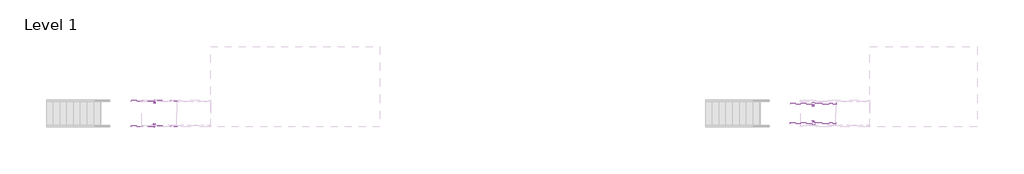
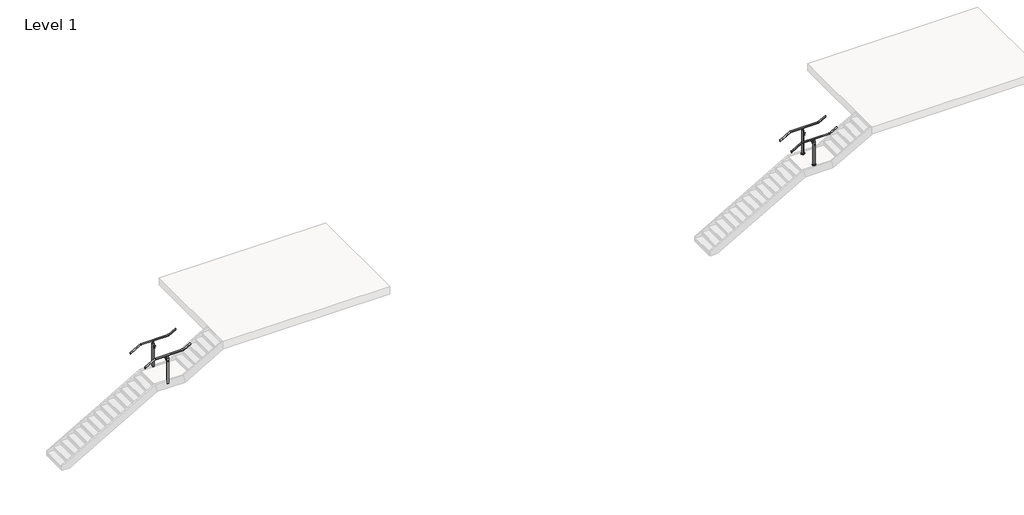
# One storey, part 23 of 26: 4 railings.
"""IFC4 building model written with IfcOpenShell, lengths in millimetres."""

from ifc_helpers import new_model, si_unit, point, frame, frame_2d, origin, place, context, project, spatial, polyline, circle_curve, ellipse_curve, trimmed, segment, composite_curve, outline, extrude, faceted_brep, element, save
from ifc_brep_helpers import plane_surface, cylinder_surface, advanced_brep

model = new_model("IFC4")

# Units and contexts
model_context = context("Model", 3, world=origin())
ifc_project = project(units=[si_unit("LENGTHUNIT", "METRE", prefix="MILLI")], contexts=[model_context])

# Site, building, storey
site = spatial("IfcSite", under=ifc_project)
building = spatial("IfcBuilding", under=site)
storey = spatial("IfcBuildingStorey", under=building, Name="Level 1", Elevation=0.0)

# Railings
placement = place(None, origin())
element("IfcRailing", 1, ObjectType="VIVA-CUBE-Glass-Core Mount-Stair-Landing", at=placement, inside=storey, context=model_context, shape_type="SolidModel", body=[
    advanced_brep(
    [(162601.2620703, 16646.1395941, 3009.6740933), (162601.2620703, 16696.9395941, 3009.6740933), (162989.007407, 16646.1395941, 3231.2428571), (162989.007407, 16696.9395941, 3231.2428571), (164055.807407, 16646.1395941, 3231.2428571), (164055.807407, 16696.9395941, 3231.2428571), (164325.2870703, 16646.1395941, 3385.2312362), (164325.2870703, 16696.9395941, 3385.2312362)],
    [
        (0, 1, ellipse_curve(frame((162601.2620703, 16671.5395941, 3009.6740933), z_axis=(-1.0, 0.0, 0.0), x_axis=(0.0, 0.0, -1.0)), 29.2544781, 25.4)),
        (1, 0, ellipse_curve(frame((162601.2620703, 16671.5395941, 3009.6740933), z_axis=(-1.0, 0.0, 0.0), x_axis=(0.0, 0.0, -1.0)), 29.2544781, 25.4)),
        (0, 2),
        (2, 3, ellipse_curve(frame((162989.007407, 16671.5395941, 3231.2428571), z_axis=(-0.9664996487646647, 0.0, -0.2566679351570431), x_axis=(0.2566679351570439, 0.0, -0.9664996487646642)), 26.2804027, 25.4)),
        (3, 1),
        (3, 2, ellipse_curve(frame((162989.007407, 16671.5395941, 3231.2428571), z_axis=(-0.9664996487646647, 0.0, -0.2566679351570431), x_axis=(0.2566679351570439, 0.0, -0.9664996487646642)), 26.2804027, 25.4)),
        (2, 4),
        (4, 5, ellipse_curve(frame((164055.807407, 16671.5395941, 3231.2428571), z_axis=(-0.966499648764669, 0.0, -0.25666793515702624), x_axis=(-0.25666793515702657, 0.0, 0.966499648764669)), 26.2804027, 25.4)),
        (5, 3),
        (5, 4, ellipse_curve(frame((164055.807407, 16671.5395941, 3231.2428571), z_axis=(-0.966499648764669, 0.0, -0.25666793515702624), x_axis=(-0.25666793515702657, 0.0, 0.966499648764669)), 26.2804027, 25.4)),
        (6, 7, ellipse_curve(frame((164325.2870703, 16671.5395941, 3385.2312362), z_axis=(1.0, 0.0, 0.0), x_axis=(0.0, 0.0, -1.0)), 29.2544781, 25.4)),
        (7, 6, ellipse_curve(frame((164325.2870703, 16671.5395941, 3385.2312362), z_axis=(1.0, 0.0, 0.0), x_axis=(0.0, 0.0, -1.0)), 29.2544781, 25.4)),
        (4, 6),
        (7, 5),
    ],
    [
        plane_surface(frame((162601.2620703, 16671.5395941, 3038.9285714), z_axis=(-1.0, 0.0, 0.0), x_axis=(0.0, 1.0, 0.0))),
        cylinder_surface(frame((162613.8639993, 16671.5395941, 3016.8751956), z_axis=(-0.8682431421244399, 0.0, -0.4961389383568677), x_axis=(0.0, 1.0, 0.0)), 25.4),
        cylinder_surface(frame((162982.2620703, 16671.5395941, 3231.2428571), z_axis=(-1.0, 0.0, 0.0), x_axis=(0.0, 1.0, 0.0)), 25.4),
        plane_surface(frame((164325.2870703, 16671.5395941, 3414.4857143), z_axis=(1.0, 0.0, 0.0), x_axis=(0.0, 1.0, 0.0))),
        cylinder_surface(frame((164061.6639993, 16671.5395941, 3234.5894813), z_axis=(-0.8682431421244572, 0.0, -0.49613893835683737), x_axis=(0.0, 1.0, 0.0)), 25.4),
    ],
    [
        (0, [[1, 2]]),
        (1, [[-1, 3, 4, 5]]),
        (1, [[-2, -5, 6, -3]]),
        (2, [[-4, 7, 8, 9]]),
        (2, [[-6, -9, 10, -7]]),
        (3, [[11, 12]]),
        (4, [[-8, 13, -12, 14]]),
        (4, [[-10, -14, -11, -13]]),
    ],
),
    extrude(outline(composite_curve([segment(trimmed(circle_curve(frame_2d((0.0, 7.0)), 7.0), [point((0.0, 14.0))], [point((0.0, 0.0))], False, "CARTESIAN"), True, "CONTINUOUS"), segment(trimmed(circle_curve(frame_2d((0.0, 7.0)), 7.0), [point((0.0, 0.0))], [point((0.0, 14.0))], False, "CARTESIAN"), True, "CONTINUOUS")], self_intersect=False)), frame((163463.7668308, 16585.8557683, 2972.3156836), z_axis=(-0.0012555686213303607, 0.0, 0.999999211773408), x_axis=(-0.999999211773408, 0.0, -0.0012555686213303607)), (0.0, 0.0, 1.0), 75.97),
    extrude(outline(composite_curve([segment(polyline([(16591.1374245, 3056.8509005), (16592.1638142, 3055.8335135)]), True, "CONTINUOUS"), segment(trimmed(circle_curve(frame_2d((16591.1078363, 3054.7681916)), 1.5), [point((16592.1638142, 3055.8335135))], [point((16592.0932378, 3053.6372698))], False, "CARTESIAN"), True, "CONTINUOUS"), segment(trimmed(circle_curve(frame_2d((16577.6078363, 3070.2618193)), 22.05), [point((16592.0932378, 3053.6372698))], [point((16563.1224348, 3053.6372698))], False, "CARTESIAN"), True, "CONTINUOUS"), segment(trimmed(circle_curve(frame_2d((16564.1078363, 3054.7681916)), 1.5), [point((16563.1224348, 3053.6372698))], [point((16563.0518584, 3055.8335135))], False, "CARTESIAN"), True, "CONTINUOUS"), segment(polyline([(16563.0518584, 3055.8335135), (16564.0782481, 3056.8509005)]), True, "CONTINUOUS"), segment(trimmed(circle_curve(frame_2d((16577.6078363, 3070.2618193)), 19.05), [point((16564.0782481, 3056.8509005))], [point((16591.1374245, 3056.8509005))], True, "CARTESIAN"), True, "CONTINUOUS")], self_intersect=False)), frame((163425.5952969, 0.0, 0.0), z_axis=(1.0, 0.0, 0.0), x_axis=(0.0, 1.0, 0.0)), (0.0, 0.0, 1.0), 74.5229187),
    extrude(outline(composite_curve([segment(trimmed(circle_curve(frame_2d((2999.1922796, 163463.7069273)), 12.5), [point((2999.1922796, 163476.2069273))], [point((2999.1922796, 163451.2069273))], False, "CARTESIAN"), True, "CONTINUOUS"), segment(trimmed(circle_curve(frame_2d((2999.1922796, 163463.7069273)), 12.5), [point((2999.1922796, 163451.2069273))], [point((2999.1922796, 163476.2069273))], False, "CARTESIAN"), True, "CONTINUOUS")], self_intersect=False)), frame((0.0, 16564.0782481, 0.0), z_axis=(0.0, 1.0, 0.0), x_axis=(0.0, 0.0, 1.0)), (0.0, 0.0, 1.0), 82.061346),
    extrude(outline(composite_curve([segment(trimmed(circle_curve(frame_2d((2999.1922796, 163463.7069273)), 12.5), [point((2999.1922796, 163451.2069273))], [point((2999.1922796, 163476.2069273))], False, "CARTESIAN"), True, "CONTINUOUS"), segment(trimmed(circle_curve(frame_2d((2999.1922796, 163463.7069273)), 12.5), [point((2999.1922796, 163476.2069273))], [point((2999.1922796, 163451.2069273))], False, "CARTESIAN"), True, "CONTINUOUS")], self_intersect=False)), frame((0.0, 16696.9395941, 0.0), z_axis=(0.0, 1.0, 0.0), x_axis=(0.0, 0.0, 1.0)), (0.0, 0.0, 1.0), 7.62),
    extrude(outline(composite_curve([segment(trimmed(circle_curve(frame_2d((163463.6714453, 16671.5395941)), 63.5), [point((163463.6714453, 16735.0395941))], [point((163463.6714453, 16608.0395941))], False, "CARTESIAN"), True, "CONTINUOUS"), segment(trimmed(circle_curve(frame_2d((163463.6714453, 16671.5395941)), 63.5), [point((163463.6714453, 16608.0395941))], [point((163463.6714453, 16735.0395941))], False, "CARTESIAN"), True, "CONTINUOUS")], self_intersect=False), holes=[composite_curve([segment(trimmed(circle_curve(frame_2d((163428.2017014, 16707.009338)), 4.7625), [point((163428.2017014, 16711.771838))], [point((163428.2017014, 16702.246838))], True, "CARTESIAN"), True, "CONTINUOUS"), segment(trimmed(circle_curve(frame_2d((163428.2017014, 16707.009338)), 4.7625), [point((163428.2017014, 16702.246838))], [point((163428.2017014, 16711.771838))], True, "CARTESIAN"), True, "CONTINUOUS")], self_intersect=False), composite_curve([segment(trimmed(circle_curve(frame_2d((163428.2017014, 16636.0698502)), 4.7625), [point((163428.2017014, 16640.8323502))], [point((163428.2017014, 16631.3073502))], True, "CARTESIAN"), True, "CONTINUOUS"), segment(trimmed(circle_curve(frame_2d((163428.2017014, 16636.0698502)), 4.7625), [point((163428.2017014, 16631.3073502))], [point((163428.2017014, 16640.8323502))], True, "CARTESIAN"), True, "CONTINUOUS")], self_intersect=False), composite_curve([segment(trimmed(circle_curve(frame_2d((163499.1411892, 16707.009338)), 4.7625), [point((163499.1411892, 16711.771838))], [point((163499.1411892, 16702.246838))], True, "CARTESIAN"), True, "CONTINUOUS"), segment(trimmed(circle_curve(frame_2d((163499.1411892, 16707.009338)), 4.7625), [point((163499.1411892, 16702.246838))], [point((163499.1411892, 16711.771838))], True, "CARTESIAN"), True, "CONTINUOUS")], self_intersect=False), composite_curve([segment(trimmed(circle_curve(frame_2d((163499.1411892, 16636.0698502)), 4.7625), [point((163499.1411892, 16640.8323502))], [point((163499.1411892, 16631.3073502))], True, "CARTESIAN"), True, "CONTINUOUS"), segment(trimmed(circle_curve(frame_2d((163499.1411892, 16636.0698502)), 4.7625), [point((163499.1411892, 16631.3073502))], [point((163499.1411892, 16640.8323502))], True, "CARTESIAN"), True, "CONTINUOUS")], self_intersect=False)]), frame((0.0, 0.0, 2177.1428571), z_axis=(0.0, 0.0, 1.0), x_axis=(1.0, 0.0, 0.0)), (0.0, 0.0, 1.0), 25.4),
    faceted_brep([(163476.3714453, 16658.8395941, 3174.433132), (163476.3714453, 16667.5708441, 3174.433132), (163450.9714453, 16667.5708441, 3174.433132), (163450.9714453, 16658.8395941, 3174.433132), (163450.9714453, 16684.2395941, 3174.433132), (163450.9714453, 16675.5083441, 3174.433132), (163476.3714453, 16675.5083441, 3174.433132), (163476.3714453, 16684.2395941, 3174.433132), (163489.0714453, 16646.1395941, 3118.2776425), (163489.0714453, 16696.9395941, 3118.2776425), (163438.2714453, 16646.1395941, 3118.2776425), (163438.2714453, 16696.9395941, 3118.2776425), (163489.0714453, 16646.1395941, 2088.2428571), (163438.2714453, 16646.1395941, 2088.2428571), (163438.2714453, 16696.9395941, 2088.2428571), (163489.0714453, 16696.9395941, 2088.2428571), (163450.9714453, 16675.5083441, 3186.4734584), (163450.9714453, 16667.5708441, 3186.4734584), (163476.3714453, 16667.5708441, 3186.4734584), (163476.3714453, 16675.5083441, 3186.4734584)], [[[0, 1, 2, 3]], [[4, 5, 6, 7]], [[8, 9, 7, 6, 1, 0]], [[3, 10, 8, 0]], [[3, 2, 5, 4, 11, 10]], [[7, 9, 11, 4]], [[12, 13, 14, 15]], [[12, 8, 10, 13]], [[13, 10, 11, 14]], [[14, 11, 9, 15]], [[15, 9, 8, 12]], [[16, 17, 18, 19]], [[19, 6, 5, 16]], [[18, 1, 6, 19]], [[17, 2, 1, 18]], [[16, 5, 2, 17]]]),
    extrude(outline(composite_curve([segment(trimmed(circle_curve(frame_2d((16685.5542263, 3206.6530378)), 2.9558141), [point((16684.0066686, 3209.1713512))], [point((16687.842566, 3204.7821187))], False, "CARTESIAN"), True, "CONTINUOUS"), segment(trimmed(circle_curve(frame_2d((16671.5763288, 3232.0488022)), 31.75), [point((16687.842566, 3204.7821187))], [point((16656.3256738, 3204.2013603))], False, "CARTESIAN"), True, "CONTINUOUS"), segment(trimmed(circle_curve(frame_2d((16657.8029788, 3206.5739456)), 2.7949225), [point((16656.3256738, 3204.2013603))], [point((16659.047632, 3209.0764304))], False, "CARTESIAN"), True, "CONTINUOUS"), segment(trimmed(circle_curve(frame_2d((16671.4428657, 3231.2861755)), 25.4345159), [point((16659.047632, 3209.0764304))], [point((16684.0066686, 3209.1713512))], True, "CARTESIAN"), True, "CONTINUOUS")], self_intersect=False)), frame((163418.4340453, 0.0, 0.0), z_axis=(1.0, 0.0, 0.0), x_axis=(0.0, 1.0, 0.0)), (0.0, 0.0, 1.0), 90.4748),
    extrude(outline(composite_curve([segment(polyline([(3200.5113742, 163490.7393602), (3200.5113742, 163436.6035304)]), True, "CONTINUOUS"), segment(trimmed(circle_curve(frame_2d((3186.1434593, 163436.6035304)), 14.3679149), [point((3200.5113742, 163436.6035304))], [point((3186.1434593, 163450.9714453))], True, "CARTESIAN"), True, "CONTINUOUS"), segment(trimmed(circle_curve(frame_2d((3186.1434593, 163463.6714453)), 12.7), [point((3186.1434593, 163450.9714453))], [point((3186.1434593, 163476.3714453))], False, "CARTESIAN"), True, "CONTINUOUS"), segment(trimmed(circle_curve(frame_2d((3186.1434593, 163490.7393602)), 14.3679149), [point((3186.1434593, 163476.3714453))], [point((3200.5113742, 163490.7393602))], True, "CARTESIAN"), True, "CONTINUOUS")], self_intersect=False)), frame((0.0, 16668.9995941, 0.0), z_axis=(0.0, 1.0, 0.0), x_axis=(0.0, 0.0, 1.0)), (0.0, 0.0, 1.0), 5.08),
])
element("IfcRailing", 2, ObjectType="VIVA-CUBE-Glass-Core Mount-Stair-Landing", at=placement, inside=storey, context=model_context, shape_type="SolidModel", body=[
    advanced_brep(
    [(162601.2620703, 15909.5395941, 3009.6740933), (162601.2620703, 15960.3395941, 3009.6740933), (162989.007407, 15909.5395941, 3231.2428571), (162989.007407, 15960.3395941, 3231.2428571), (164055.807407, 15909.5395941, 3231.2428571), (164055.807407, 15960.3395941, 3231.2428571), (164325.2870703, 15909.5395941, 3385.2312362), (164325.2870703, 15960.3395941, 3385.2312362)],
    [
        (0, 1, ellipse_curve(frame((162601.2620703, 15934.9395941, 3009.6740933), z_axis=(-1.0, 0.0, 0.0), x_axis=(0.0, 0.0, -1.0)), 29.2544781, 25.4)),
        (1, 0, ellipse_curve(frame((162601.2620703, 15934.9395941, 3009.6740933), z_axis=(-1.0, 0.0, 0.0), x_axis=(0.0, 0.0, -1.0)), 29.2544781, 25.4)),
        (0, 2),
        (2, 3, ellipse_curve(frame((162989.007407, 15934.9395941, 3231.2428571), z_axis=(-0.9664996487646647, 0.0, -0.2566679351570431), x_axis=(0.2566679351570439, 0.0, -0.9664996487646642)), 26.2804027, 25.4)),
        (3, 1),
        (3, 2, ellipse_curve(frame((162989.007407, 15934.9395941, 3231.2428571), z_axis=(-0.9664996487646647, 0.0, -0.2566679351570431), x_axis=(0.2566679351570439, 0.0, -0.9664996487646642)), 26.2804027, 25.4)),
        (2, 4),
        (4, 5, ellipse_curve(frame((164055.807407, 15934.9395941, 3231.2428571), z_axis=(-0.966499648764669, 0.0, -0.25666793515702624), x_axis=(-0.25666793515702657, 0.0, 0.966499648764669)), 26.2804027, 25.4)),
        (5, 3),
        (5, 4, ellipse_curve(frame((164055.807407, 15934.9395941, 3231.2428571), z_axis=(-0.966499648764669, 0.0, -0.25666793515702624), x_axis=(-0.25666793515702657, 0.0, 0.966499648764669)), 26.2804027, 25.4)),
        (6, 7, ellipse_curve(frame((164325.2870703, 15934.9395941, 3385.2312362), z_axis=(1.0, 0.0, 0.0), x_axis=(0.0, 0.0, -1.0)), 29.2544781, 25.4)),
        (7, 6, ellipse_curve(frame((164325.2870703, 15934.9395941, 3385.2312362), z_axis=(1.0, 0.0, 0.0), x_axis=(0.0, 0.0, -1.0)), 29.2544781, 25.4)),
        (4, 6),
        (7, 5),
    ],
    [
        plane_surface(frame((162601.2620703, 15934.9395941, 3038.9285714), z_axis=(-1.0, 0.0, 0.0), x_axis=(0.0, 1.0, 0.0))),
        cylinder_surface(frame((162613.8639993, 15934.9395941, 3016.8751956), z_axis=(-0.8682431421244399, 0.0, -0.4961389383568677), x_axis=(0.0, 1.0, 0.0)), 25.4),
        cylinder_surface(frame((162982.2620703, 15934.9395941, 3231.2428571), z_axis=(-1.0, 0.0, 0.0), x_axis=(0.0, 1.0, 0.0)), 25.4),
        plane_surface(frame((164325.2870703, 15934.9395941, 3414.4857143), z_axis=(1.0, 0.0, 0.0), x_axis=(0.0, 1.0, 0.0))),
        cylinder_surface(frame((164061.6639993, 15934.9395941, 3234.5894813), z_axis=(-0.8682431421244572, 0.0, -0.49613893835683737), x_axis=(0.0, 1.0, 0.0)), 25.4),
    ],
    [
        (0, [[1, 2]]),
        (1, [[-1, 3, 4, 5]]),
        (1, [[-2, -5, 6, -3]]),
        (2, [[-4, 7, 8, 9]]),
        (2, [[-6, -9, 10, -7]]),
        (3, [[11, 12]]),
        (4, [[-8, 13, -12, 14]]),
        (4, [[-10, -14, -11, -13]]),
    ],
),
    extrude(outline(composite_curve([segment(trimmed(circle_curve(frame_2d((0.0, -7.0)), 7.0), [point((0.0, -14.0))], [point((0.0, 0.0))], False, "CARTESIAN"), True, "CONTINUOUS"), segment(trimmed(circle_curve(frame_2d((0.0, -7.0)), 7.0), [point((0.0, 0.0))], [point((0.0, -14.0))], False, "CARTESIAN"), True, "CONTINUOUS")], self_intersect=False)), frame((163463.7668308, 16020.6234199, 2972.3156836), z_axis=(-0.0012555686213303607, 0.0, 0.999999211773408), x_axis=(-0.999999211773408, 0.0, -0.0012555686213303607)), (0.0, 0.0, 1.0), 75.97),
    extrude(outline(composite_curve([segment(trimmed(circle_curve(frame_2d((16028.8713519, 3070.2618193)), 19.05), [point((16015.3417637, 3056.8509005))], [point((16042.4009401, 3056.8509005))], True, "CARTESIAN"), True, "CONTINUOUS"), segment(polyline([(16042.4009401, 3056.8509005), (16043.4273298, 3055.8335135)]), True, "CONTINUOUS"), segment(trimmed(circle_curve(frame_2d((16042.3713519, 3054.7681916)), 1.5), [point((16043.4273298, 3055.8335135))], [point((16043.3567534, 3053.6372698))], False, "CARTESIAN"), True, "CONTINUOUS"), segment(trimmed(circle_curve(frame_2d((16028.8713519, 3070.2618193)), 22.05), [point((16043.3567534, 3053.6372698))], [point((16014.3859504, 3053.6372698))], False, "CARTESIAN"), True, "CONTINUOUS"), segment(trimmed(circle_curve(frame_2d((16015.3713519, 3054.7681916)), 1.5), [point((16014.3859504, 3053.6372698))], [point((16014.315374, 3055.8335135))], False, "CARTESIAN"), True, "CONTINUOUS"), segment(polyline([(16014.315374, 3055.8335135), (16015.3417637, 3056.8509005)]), True, "CONTINUOUS")], self_intersect=False)), frame((163425.5952969, 0.0, 0.0), z_axis=(1.0, 0.0, 0.0), x_axis=(0.0, 1.0, 0.0)), (0.0, 0.0, 1.0), 74.5229187),
    extrude(outline(composite_curve([segment(trimmed(circle_curve(frame_2d((2999.1922796, 163463.7069273)), 12.5), [point((2999.1922796, 163476.2069273))], [point((2999.1922796, 163451.2069273))], False, "CARTESIAN"), True, "CONTINUOUS"), segment(trimmed(circle_curve(frame_2d((2999.1922796, 163463.7069273)), 12.5), [point((2999.1922796, 163451.2069273))], [point((2999.1922796, 163476.2069273))], False, "CARTESIAN"), True, "CONTINUOUS")], self_intersect=False)), frame((0.0, 15960.3395941, 0.0), z_axis=(0.0, 1.0, 0.0), x_axis=(0.0, 0.0, 1.0)), (0.0, 0.0, 1.0), 82.061346),
    extrude(outline(composite_curve([segment(trimmed(circle_curve(frame_2d((2999.1922796, 163463.7069273)), 12.5), [point((2999.1922796, 163451.2069273))], [point((2999.1922796, 163476.2069273))], False, "CARTESIAN"), True, "CONTINUOUS"), segment(trimmed(circle_curve(frame_2d((2999.1922796, 163463.7069273)), 12.5), [point((2999.1922796, 163476.2069273))], [point((2999.1922796, 163451.2069273))], False, "CARTESIAN"), True, "CONTINUOUS")], self_intersect=False)), frame((0.0, 15901.9195941, 0.0), z_axis=(0.0, 1.0, 0.0), x_axis=(0.0, 0.0, 1.0)), (0.0, 0.0, 1.0), 7.62),
    extrude(outline(composite_curve([segment(trimmed(circle_curve(frame_2d((163463.6714453, 15934.9395941)), 63.5), [point((163463.6714453, 15871.4395941))], [point((163463.6714453, 15998.4395941))], False, "CARTESIAN"), True, "CONTINUOUS"), segment(trimmed(circle_curve(frame_2d((163463.6714453, 15934.9395941)), 63.5), [point((163463.6714453, 15998.4395941))], [point((163463.6714453, 15871.4395941))], False, "CARTESIAN"), True, "CONTINUOUS")], self_intersect=False), holes=[composite_curve([segment(trimmed(circle_curve(frame_2d((163428.2017014, 15899.4698502)), 4.7625), [point((163428.2017014, 15894.7073502))], [point((163428.2017014, 15904.2323502))], True, "CARTESIAN"), True, "CONTINUOUS"), segment(trimmed(circle_curve(frame_2d((163428.2017014, 15899.4698502)), 4.7625), [point((163428.2017014, 15904.2323502))], [point((163428.2017014, 15894.7073502))], True, "CARTESIAN"), True, "CONTINUOUS")], self_intersect=False), composite_curve([segment(trimmed(circle_curve(frame_2d((163428.2017014, 15970.409338)), 4.7625), [point((163428.2017014, 15965.646838))], [point((163428.2017014, 15975.171838))], True, "CARTESIAN"), True, "CONTINUOUS"), segment(trimmed(circle_curve(frame_2d((163428.2017014, 15970.409338)), 4.7625), [point((163428.2017014, 15975.171838))], [point((163428.2017014, 15965.646838))], True, "CARTESIAN"), True, "CONTINUOUS")], self_intersect=False), composite_curve([segment(trimmed(circle_curve(frame_2d((163499.1411892, 15899.4698502)), 4.7625), [point((163499.1411892, 15894.7073502))], [point((163499.1411892, 15904.2323502))], True, "CARTESIAN"), True, "CONTINUOUS"), segment(trimmed(circle_curve(frame_2d((163499.1411892, 15899.4698502)), 4.7625), [point((163499.1411892, 15904.2323502))], [point((163499.1411892, 15894.7073502))], True, "CARTESIAN"), True, "CONTINUOUS")], self_intersect=False), composite_curve([segment(trimmed(circle_curve(frame_2d((163499.1411892, 15970.409338)), 4.7625), [point((163499.1411892, 15965.646838))], [point((163499.1411892, 15975.171838))], True, "CARTESIAN"), True, "CONTINUOUS"), segment(trimmed(circle_curve(frame_2d((163499.1411892, 15970.409338)), 4.7625), [point((163499.1411892, 15975.171838))], [point((163499.1411892, 15965.646838))], True, "CARTESIAN"), True, "CONTINUOUS")], self_intersect=False)]), frame((0.0, 0.0, 2177.1428571), z_axis=(0.0, 0.0, 1.0), x_axis=(1.0, 0.0, 0.0)), (0.0, 0.0, 1.0), 25.4),
    faceted_brep([(163476.3714453, 15947.6395941, 3174.433132), (163450.9714453, 15947.6395941, 3174.433132), (163450.9714453, 15938.9083441, 3174.433132), (163476.3714453, 15938.9083441, 3174.433132), (163450.9714453, 15922.2395941, 3174.433132), (163476.3714453, 15922.2395941, 3174.433132), (163476.3714453, 15930.9708441, 3174.433132), (163450.9714453, 15930.9708441, 3174.433132), (163489.0714453, 15960.3395941, 3118.2776425), (163489.0714453, 15909.5395941, 3118.2776425), (163438.2714453, 15960.3395941, 3118.2776425), (163438.2714453, 15909.5395941, 3118.2776425), (163489.0714453, 15960.3395941, 2088.2428571), (163489.0714453, 15909.5395941, 2088.2428571), (163438.2714453, 15909.5395941, 2088.2428571), (163438.2714453, 15960.3395941, 2088.2428571), (163450.9714453, 15930.9708441, 3186.4734584), (163476.3714453, 15930.9708441, 3186.4734584), (163476.3714453, 15938.9083441, 3186.4734584), (163450.9714453, 15938.9083441, 3186.4734584)], [[[0, 1, 2, 3]], [[4, 5, 6, 7]], [[8, 0, 3, 6, 5, 9]], [[1, 0, 8, 10]], [[1, 10, 11, 4, 7, 2]], [[5, 4, 11, 9]], [[12, 13, 14, 15]], [[12, 15, 10, 8]], [[15, 14, 11, 10]], [[14, 13, 9, 11]], [[13, 12, 8, 9]], [[16, 17, 18, 19]], [[17, 16, 7, 6]], [[18, 17, 6, 3]], [[19, 18, 3, 2]], [[16, 19, 2, 7]]]),
    extrude(outline(composite_curve([segment(trimmed(circle_curve(frame_2d((15935.0363225, 3231.2861755)), 25.4345159), [point((15922.4725196, 3209.1713512))], [point((15947.4315562, 3209.0764304))], True, "CARTESIAN"), True, "CONTINUOUS"), segment(trimmed(circle_curve(frame_2d((15948.6762094, 3206.5739456)), 2.7949225), [point((15947.4315562, 3209.0764304))], [point((15950.1535144, 3204.2013603))], False, "CARTESIAN"), True, "CONTINUOUS"), segment(trimmed(circle_curve(frame_2d((15934.9028594, 3232.0488022)), 31.75), [point((15950.1535144, 3204.2013603))], [point((15918.6366222, 3204.7821187))], False, "CARTESIAN"), True, "CONTINUOUS"), segment(trimmed(circle_curve(frame_2d((15920.9249619, 3206.6530378)), 2.9558141), [point((15918.6366222, 3204.7821187))], [point((15922.4725196, 3209.1713512))], False, "CARTESIAN"), True, "CONTINUOUS")], self_intersect=False)), frame((163418.4340453, 0.0, 0.0), z_axis=(1.0, 0.0, 0.0), x_axis=(0.0, 1.0, 0.0)), (0.0, 0.0, 1.0), 90.4748),
    extrude(outline(composite_curve([segment(polyline([(3200.5113742, 163490.7393602), (3200.5113742, 163436.6035304)]), True, "CONTINUOUS"), segment(trimmed(circle_curve(frame_2d((3186.1434593, 163436.6035304)), 14.3679149), [point((3200.5113742, 163436.6035304))], [point((3186.1434593, 163450.9714453))], True, "CARTESIAN"), True, "CONTINUOUS"), segment(trimmed(circle_curve(frame_2d((3186.1434593, 163463.6714453)), 12.7), [point((3186.1434593, 163450.9714453))], [point((3186.1434593, 163476.3714453))], False, "CARTESIAN"), True, "CONTINUOUS"), segment(trimmed(circle_curve(frame_2d((3186.1434593, 163490.7393602)), 14.3679149), [point((3186.1434593, 163476.3714453))], [point((3200.5113742, 163490.7393602))], True, "CARTESIAN"), True, "CONTINUOUS")], self_intersect=False)), frame((0.0, 15932.3995941, 0.0), z_axis=(0.0, 1.0, 0.0), x_axis=(0.0, 0.0, 1.0)), (0.0, 0.0, 1.0), 5.08),
])
element("IfcRailing", 3, ObjectType="VIVA-CUBE-Glass-Weld Mount-Stair-Landing", at=placement, inside=storey, context=model_context, shape_type="SolidModel", body=[
    advanced_brep(
    [(137924.2882982, 16760.4395941, 3009.6740933), (137924.2882982, 16811.2395941, 3009.6740933), (138312.0336349, 16760.4395941, 3231.2428571), (138312.0336349, 16811.2395941, 3231.2428571), (139378.8336349, 16760.4395941, 3231.2428571), (139378.8336349, 16811.2395941, 3231.2428571), (139648.3132982, 16760.4395941, 3385.2312362), (139648.3132982, 16811.2395941, 3385.2312362)],
    [
        (0, 1, ellipse_curve(frame((137924.2882982, 16785.8395941, 3009.6740933), z_axis=(-1.0, 0.0, 0.0), x_axis=(0.0, 0.0, -0.9999999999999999)), 29.2544781, 25.4)),
        (1, 0, ellipse_curve(frame((137924.2882982, 16785.8395941, 3009.6740933), z_axis=(-1.0, 0.0, 0.0), x_axis=(0.0, 0.0, -0.9999999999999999)), 29.2544781, 25.4)),
        (0, 2),
        (2, 3, ellipse_curve(frame((138312.0336349, 16785.8395941, 3231.2428571), z_axis=(-0.966499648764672, 0.0, -0.25666793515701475), x_axis=(0.25666793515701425, 0.0, -0.9664996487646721)), 26.2804027, 25.4)),
        (3, 1),
        (3, 2, ellipse_curve(frame((138312.0336349, 16785.8395941, 3231.2428571), z_axis=(-0.966499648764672, 0.0, -0.25666793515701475), x_axis=(0.25666793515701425, 0.0, -0.9664996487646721)), 26.2804027, 25.4)),
        (2, 4),
        (4, 5, ellipse_curve(frame((139378.8336349, 16785.8395941, 3231.2428571), z_axis=(-0.9664996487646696, 0.0, -0.2566679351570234), x_axis=(-0.2566679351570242, 0.0, 0.9664996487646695)), 26.2804027, 25.4)),
        (5, 3),
        (5, 4, ellipse_curve(frame((139378.8336349, 16785.8395941, 3231.2428571), z_axis=(-0.9664996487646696, 0.0, -0.2566679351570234), x_axis=(-0.2566679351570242, 0.0, 0.9664996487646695)), 26.2804027, 25.4)),
        (6, 7, ellipse_curve(frame((139648.3132982, 16785.8395941, 3385.2312362), z_axis=(1.0, 0.0, 0.0), x_axis=(0.0, 0.0, -1.0)), 29.2544781, 25.4)),
        (7, 6, ellipse_curve(frame((139648.3132982, 16785.8395941, 3385.2312362), z_axis=(1.0, 0.0, 0.0), x_axis=(0.0, 0.0, -1.0)), 29.2544781, 25.4)),
        (4, 6),
        (7, 5),
    ],
    [
        plane_surface(frame((137924.2882982, 16785.8395941, 3038.9285714), z_axis=(-1.0, 0.0, 0.0), x_axis=(0.0, 1.0, 0.0))),
        cylinder_surface(frame((137936.8902273, 16785.8395941, 3016.8751956), z_axis=(-0.868243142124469, 0.0, -0.49613893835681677), x_axis=(0.0, 1.0, 0.0)), 25.4),
        cylinder_surface(frame((138305.2882982, 16785.8395941, 3231.2428571), z_axis=(-1.0, 0.0, 0.0), x_axis=(0.0, 1.0, 0.0)), 25.4),
        plane_surface(frame((139648.3132982, 16785.8395941, 3414.4857143), z_axis=(1.0, 0.0, 0.0), x_axis=(0.0, 1.0, 0.0))),
        cylinder_surface(frame((139384.6902273, 16785.8395941, 3234.5894813), z_axis=(-0.8682431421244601, 0.0, -0.4961389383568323), x_axis=(0.0, 1.0, 0.0)), 25.4),
    ],
    [
        (0, [[1, 2]]),
        (1, [[-1, 3, 4, 5]]),
        (1, [[-2, -5, 6, -3]]),
        (2, [[-4, 7, 8, 9]]),
        (2, [[-6, -9, 10, -7]]),
        (3, [[11, 12]]),
        (4, [[-8, 13, -12, 14]]),
        (4, [[-10, -14, -11, -13]]),
    ],
),
    extrude(outline(composite_curve([segment(trimmed(circle_curve(frame_2d((0.0, 7.0)), 7.0), [point((0.0, 14.0))], [point((0.0, 0.0))], False, "CARTESIAN"), True, "CONTINUOUS"), segment(trimmed(circle_curve(frame_2d((0.0, 7.0)), 7.0), [point((0.0, 0.0))], [point((0.0, 14.0))], False, "CARTESIAN"), True, "CONTINUOUS")], self_intersect=False)), frame((138786.7930588, 16700.1557683, 2972.3156836), z_axis=(-0.0012555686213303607, 0.0, 0.999999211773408), x_axis=(-0.999999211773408, 0.0, -0.0012555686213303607)), (0.0, 0.0, 1.0), 75.97),
    extrude(outline(composite_curve([segment(polyline([(16705.4374245, 3056.8509005), (16706.4638142, 3055.8335135)]), True, "CONTINUOUS"), segment(trimmed(circle_curve(frame_2d((16705.4078363, 3054.7681916)), 1.5), [point((16706.4638142, 3055.8335135))], [point((16706.3932378, 3053.6372698))], False, "CARTESIAN"), True, "CONTINUOUS"), segment(trimmed(circle_curve(frame_2d((16691.9078363, 3070.2618193)), 22.05), [point((16706.3932378, 3053.6372698))], [point((16677.4224348, 3053.6372698))], False, "CARTESIAN"), True, "CONTINUOUS"), segment(trimmed(circle_curve(frame_2d((16678.4078363, 3054.7681916)), 1.5), [point((16677.4224348, 3053.6372698))], [point((16677.3518584, 3055.8335135))], False, "CARTESIAN"), True, "CONTINUOUS"), segment(polyline([(16677.3518584, 3055.8335135), (16678.3782481, 3056.8509005)]), True, "CONTINUOUS"), segment(trimmed(circle_curve(frame_2d((16691.9078363, 3070.2618193)), 19.05), [point((16678.3782481, 3056.8509005))], [point((16705.4374245, 3056.8509005))], True, "CARTESIAN"), True, "CONTINUOUS")], self_intersect=False)), frame((138748.6215249, 0.0, 0.0), z_axis=(1.0, 0.0, 0.0), x_axis=(0.0, 1.0, 0.0)), (0.0, 0.0, 1.0), 74.5229187),
    extrude(outline(composite_curve([segment(trimmed(circle_curve(frame_2d((2999.1922796, 138786.7331553)), 12.5), [point((2999.1922796, 138799.2331553))], [point((2999.1922796, 138774.2331553))], False, "CARTESIAN"), True, "CONTINUOUS"), segment(trimmed(circle_curve(frame_2d((2999.1922796, 138786.7331553)), 12.5), [point((2999.1922796, 138774.2331553))], [point((2999.1922796, 138799.2331553))], False, "CARTESIAN"), True, "CONTINUOUS")], self_intersect=False)), frame((0.0, 16678.3782481, 0.0), z_axis=(0.0, 1.0, 0.0), x_axis=(0.0, 0.0, 1.0)), (0.0, 0.0, 1.0), 82.061346),
    extrude(outline(composite_curve([segment(trimmed(circle_curve(frame_2d((2999.1922796, 138786.7331553)), 12.5), [point((2999.1922796, 138774.2331553))], [point((2999.1922796, 138799.2331553))], False, "CARTESIAN"), True, "CONTINUOUS"), segment(trimmed(circle_curve(frame_2d((2999.1922796, 138786.7331553)), 12.5), [point((2999.1922796, 138799.2331553))], [point((2999.1922796, 138774.2331553))], False, "CARTESIAN"), True, "CONTINUOUS")], self_intersect=False)), frame((0.0, 16811.2395941, 0.0), z_axis=(0.0, 1.0, 0.0), x_axis=(0.0, 0.0, 1.0)), (0.0, 0.0, 1.0), 7.62),
    faceted_brep([(138799.3976732, 16773.1395941, 3174.433132), (138799.3976732, 16781.8708441, 3174.433132), (138773.9976732, 16781.8708441, 3174.433132), (138773.9976732, 16773.1395941, 3174.433132), (138773.9976732, 16798.5395941, 3174.433132), (138773.9976732, 16789.8083441, 3174.433132), (138799.3976732, 16789.8083441, 3174.433132), (138799.3976732, 16798.5395941, 3174.433132), (138812.0976732, 16760.4395941, 3118.2776425), (138812.0976732, 16811.2395941, 3118.2776425), (138761.2976732, 16760.4395941, 3118.2776425), (138761.2976732, 16811.2395941, 3118.2776425), (138812.0976732, 16760.4395941, 2088.2428571), (138761.2976732, 16760.4395941, 2088.2428571), (138761.2976732, 16811.2395941, 2088.2428571), (138812.0976732, 16811.2395941, 2088.2428571), (138773.9976732, 16789.8083441, 3186.4734584), (138773.9976732, 16781.8708441, 3186.4734584), (138799.3976732, 16781.8708441, 3186.4734584), (138799.3976732, 16789.8083441, 3186.4734584)], [[[0, 1, 2, 3]], [[4, 5, 6, 7]], [[8, 9, 7, 6, 1, 0]], [[3, 10, 8, 0]], [[3, 2, 5, 4, 11, 10]], [[7, 9, 11, 4]], [[12, 13, 14, 15]], [[12, 8, 10, 13]], [[13, 10, 11, 14]], [[14, 11, 9, 15]], [[15, 9, 8, 12]], [[16, 17, 18, 19]], [[19, 6, 5, 16]], [[18, 1, 6, 19]], [[17, 2, 1, 18]], [[16, 5, 2, 17]]]),
    extrude(outline(composite_curve([segment(trimmed(circle_curve(frame_2d((16799.8542263, 3206.6530378)), 2.9558141), [point((16798.3066686, 3209.1713512))], [point((16802.142566, 3204.7821187))], False, "CARTESIAN"), True, "CONTINUOUS"), segment(trimmed(circle_curve(frame_2d((16785.8763288, 3232.0488022)), 31.75), [point((16802.142566, 3204.7821187))], [point((16770.6256738, 3204.2013603))], False, "CARTESIAN"), True, "CONTINUOUS"), segment(trimmed(circle_curve(frame_2d((16772.1029788, 3206.5739456)), 2.7949225), [point((16770.6256738, 3204.2013603))], [point((16773.347632, 3209.0764304))], False, "CARTESIAN"), True, "CONTINUOUS"), segment(trimmed(circle_curve(frame_2d((16785.7428657, 3231.2861755)), 25.4345159), [point((16773.347632, 3209.0764304))], [point((16798.3066686, 3209.1713512))], True, "CARTESIAN"), True, "CONTINUOUS")], self_intersect=False)), frame((138741.4602732, 0.0, 0.0), z_axis=(1.0, 0.0, 0.0), x_axis=(0.0, 1.0, 0.0)), (0.0, 0.0, 1.0), 90.4748),
    extrude(outline(composite_curve([segment(polyline([(3200.5113742, 138813.7655881), (3200.5113742, 138759.6297584)]), True, "CONTINUOUS"), segment(trimmed(circle_curve(frame_2d((3186.1434593, 138759.6297584)), 14.3679149), [point((3200.5113742, 138759.6297584))], [point((3186.1434593, 138773.9976732))], True, "CARTESIAN"), True, "CONTINUOUS"), segment(trimmed(circle_curve(frame_2d((3186.1434593, 138786.6976732)), 12.7), [point((3186.1434593, 138773.9976732))], [point((3186.1434593, 138799.3976732))], False, "CARTESIAN"), True, "CONTINUOUS"), segment(trimmed(circle_curve(frame_2d((3186.1434593, 138813.7655881)), 14.3679149), [point((3186.1434593, 138799.3976732))], [point((3200.5113742, 138813.7655881))], True, "CARTESIAN"), True, "CONTINUOUS")], self_intersect=False)), frame((0.0, 16783.2995941, 0.0), z_axis=(0.0, 1.0, 0.0), x_axis=(0.0, 0.0, 1.0)), (0.0, 0.0, 1.0), 5.08),
])
element("IfcRailing", 4, ObjectType="VIVA-CUBE-Glass-Weld Mount-Stair-Landing", at=placement, inside=storey, context=model_context, shape_type="SolidModel", body=[
    advanced_brep(
    [(137924.2882982, 15795.2395941, 3009.6740933), (137924.2882982, 15846.0395941, 3009.6740933), (138312.0336349, 15795.2395941, 3231.2428571), (138312.0336349, 15846.0395941, 3231.2428571), (139378.8336349, 15795.2395941, 3231.2428571), (139378.8336349, 15846.0395941, 3231.2428571), (139648.3132982, 15795.2395941, 3385.2312362), (139648.3132982, 15846.0395941, 3385.2312362)],
    [
        (0, 1, ellipse_curve(frame((137924.2882982, 15820.6395941, 3009.6740933), z_axis=(-1.0, 0.0, 0.0), x_axis=(0.0, 0.0, -0.9999999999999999)), 29.2544781, 25.4)),
        (1, 0, ellipse_curve(frame((137924.2882982, 15820.6395941, 3009.6740933), z_axis=(-1.0, 0.0, 0.0), x_axis=(0.0, 0.0, -0.9999999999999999)), 29.2544781, 25.4)),
        (0, 2),
        (2, 3, ellipse_curve(frame((138312.0336349, 15820.6395941, 3231.2428571), z_axis=(-0.966499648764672, 0.0, -0.25666793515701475), x_axis=(0.25666793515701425, 0.0, -0.9664996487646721)), 26.2804027, 25.4)),
        (3, 1),
        (3, 2, ellipse_curve(frame((138312.0336349, 15820.6395941, 3231.2428571), z_axis=(-0.966499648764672, 0.0, -0.25666793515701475), x_axis=(0.25666793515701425, 0.0, -0.9664996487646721)), 26.2804027, 25.4)),
        (2, 4),
        (4, 5, ellipse_curve(frame((139378.8336349, 15820.6395941, 3231.2428571), z_axis=(-0.9664996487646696, 0.0, -0.2566679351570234), x_axis=(-0.2566679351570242, 0.0, 0.9664996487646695)), 26.2804027, 25.4)),
        (5, 3),
        (5, 4, ellipse_curve(frame((139378.8336349, 15820.6395941, 3231.2428571), z_axis=(-0.9664996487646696, 0.0, -0.2566679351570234), x_axis=(-0.2566679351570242, 0.0, 0.9664996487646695)), 26.2804027, 25.4)),
        (6, 7, ellipse_curve(frame((139648.3132982, 15820.6395941, 3385.2312362), z_axis=(1.0, 0.0, 0.0), x_axis=(0.0, 0.0, -1.0)), 29.2544781, 25.4)),
        (7, 6, ellipse_curve(frame((139648.3132982, 15820.6395941, 3385.2312362), z_axis=(1.0, 0.0, 0.0), x_axis=(0.0, 0.0, -1.0)), 29.2544781, 25.4)),
        (4, 6),
        (7, 5),
    ],
    [
        plane_surface(frame((137924.2882982, 15820.6395941, 3038.9285714), z_axis=(-1.0, 0.0, 0.0), x_axis=(0.0, 1.0, 0.0))),
        cylinder_surface(frame((137936.8902273, 15820.6395941, 3016.8751956), z_axis=(-0.868243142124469, 0.0, -0.49613893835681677), x_axis=(0.0, 1.0, 0.0)), 25.4),
        cylinder_surface(frame((138305.2882982, 15820.6395941, 3231.2428571), z_axis=(-1.0, 0.0, 0.0), x_axis=(0.0, 1.0, 0.0)), 25.4),
        plane_surface(frame((139648.3132982, 15820.6395941, 3414.4857143), z_axis=(1.0, 0.0, 0.0), x_axis=(0.0, 1.0, 0.0))),
        cylinder_surface(frame((139384.6902273, 15820.6395941, 3234.5894813), z_axis=(-0.8682431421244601, 0.0, -0.4961389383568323), x_axis=(0.0, 1.0, 0.0)), 25.4),
    ],
    [
        (0, [[1, 2]]),
        (1, [[-1, 3, 4, 5]]),
        (1, [[-2, -5, 6, -3]]),
        (2, [[-4, 7, 8, 9]]),
        (2, [[-6, -9, 10, -7]]),
        (3, [[11, 12]]),
        (4, [[-8, 13, -12, 14]]),
        (4, [[-10, -14, -11, -13]]),
    ],
),
    extrude(outline(composite_curve([segment(trimmed(circle_curve(frame_2d((0.0, -7.0)), 7.0), [point((0.0, -14.0))], [point((0.0, 0.0))], False, "CARTESIAN"), True, "CONTINUOUS"), segment(trimmed(circle_curve(frame_2d((0.0, -7.0)), 7.0), [point((0.0, 0.0))], [point((0.0, -14.0))], False, "CARTESIAN"), True, "CONTINUOUS")], self_intersect=False)), frame((138786.7930588, 15906.3234199, 2972.3156836), z_axis=(-0.0012555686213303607, 0.0, 0.999999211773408), x_axis=(-0.999999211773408, 0.0, -0.0012555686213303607)), (0.0, 0.0, 1.0), 75.97),
    extrude(outline(composite_curve([segment(trimmed(circle_curve(frame_2d((15914.5713519, 3070.2618193)), 19.05), [point((15901.0417637, 3056.8509005))], [point((15928.1009401, 3056.8509005))], True, "CARTESIAN"), True, "CONTINUOUS"), segment(polyline([(15928.1009401, 3056.8509005), (15929.1273298, 3055.8335135)]), True, "CONTINUOUS"), segment(trimmed(circle_curve(frame_2d((15928.0713519, 3054.7681916)), 1.5), [point((15929.1273298, 3055.8335135))], [point((15929.0567534, 3053.6372698))], False, "CARTESIAN"), True, "CONTINUOUS"), segment(trimmed(circle_curve(frame_2d((15914.5713519, 3070.2618193)), 22.05), [point((15929.0567534, 3053.6372698))], [point((15900.0859504, 3053.6372698))], False, "CARTESIAN"), True, "CONTINUOUS"), segment(trimmed(circle_curve(frame_2d((15901.0713519, 3054.7681916)), 1.5), [point((15900.0859504, 3053.6372698))], [point((15900.015374, 3055.8335135))], False, "CARTESIAN"), True, "CONTINUOUS"), segment(polyline([(15900.015374, 3055.8335135), (15901.0417637, 3056.8509005)]), True, "CONTINUOUS")], self_intersect=False)), frame((138748.6215249, 0.0, 0.0), z_axis=(1.0, 0.0, 0.0), x_axis=(0.0, 1.0, 0.0)), (0.0, 0.0, 1.0), 74.5229187),
    extrude(outline(composite_curve([segment(trimmed(circle_curve(frame_2d((2999.1922796, 138786.7331553)), 12.5), [point((2999.1922796, 138799.2331553))], [point((2999.1922796, 138774.2331553))], False, "CARTESIAN"), True, "CONTINUOUS"), segment(trimmed(circle_curve(frame_2d((2999.1922796, 138786.7331553)), 12.5), [point((2999.1922796, 138774.2331553))], [point((2999.1922796, 138799.2331553))], False, "CARTESIAN"), True, "CONTINUOUS")], self_intersect=False)), frame((0.0, 15846.0395941, 0.0), z_axis=(0.0, 1.0, 0.0), x_axis=(0.0, 0.0, 1.0)), (0.0, 0.0, 1.0), 82.061346),
    extrude(outline(composite_curve([segment(trimmed(circle_curve(frame_2d((2999.1922796, 138786.7331553)), 12.5), [point((2999.1922796, 138774.2331553))], [point((2999.1922796, 138799.2331553))], False, "CARTESIAN"), True, "CONTINUOUS"), segment(trimmed(circle_curve(frame_2d((2999.1922796, 138786.7331553)), 12.5), [point((2999.1922796, 138799.2331553))], [point((2999.1922796, 138774.2331553))], False, "CARTESIAN"), True, "CONTINUOUS")], self_intersect=False)), frame((0.0, 15787.6195941, 0.0), z_axis=(0.0, 1.0, 0.0), x_axis=(0.0, 0.0, 1.0)), (0.0, 0.0, 1.0), 7.62),
    faceted_brep([(138799.3976732, 15833.3395941, 3174.433132), (138773.9976732, 15833.3395941, 3174.433132), (138773.9976732, 15824.6083441, 3174.433132), (138799.3976732, 15824.6083441, 3174.433132), (138773.9976732, 15807.9395941, 3174.433132), (138799.3976732, 15807.9395941, 3174.433132), (138799.3976732, 15816.6708441, 3174.433132), (138773.9976732, 15816.6708441, 3174.433132), (138812.0976732, 15846.0395941, 3118.2776425), (138812.0976732, 15795.2395941, 3118.2776425), (138761.2976732, 15846.0395941, 3118.2776425), (138761.2976732, 15795.2395941, 3118.2776425), (138812.0976732, 15846.0395941, 2088.2428571), (138812.0976732, 15795.2395941, 2088.2428571), (138761.2976732, 15795.2395941, 2088.2428571), (138761.2976732, 15846.0395941, 2088.2428571), (138773.9976732, 15816.6708441, 3186.4734584), (138799.3976732, 15816.6708441, 3186.4734584), (138799.3976732, 15824.6083441, 3186.4734584), (138773.9976732, 15824.6083441, 3186.4734584)], [[[0, 1, 2, 3]], [[4, 5, 6, 7]], [[8, 0, 3, 6, 5, 9]], [[1, 0, 8, 10]], [[1, 10, 11, 4, 7, 2]], [[5, 4, 11, 9]], [[12, 13, 14, 15]], [[12, 15, 10, 8]], [[15, 14, 11, 10]], [[14, 13, 9, 11]], [[13, 12, 8, 9]], [[16, 17, 18, 19]], [[17, 16, 7, 6]], [[18, 17, 6, 3]], [[19, 18, 3, 2]], [[16, 19, 2, 7]]]),
    extrude(outline(composite_curve([segment(trimmed(circle_curve(frame_2d((15820.7363225, 3231.2861755)), 25.4345159), [point((15808.1725196, 3209.1713512))], [point((15833.1315562, 3209.0764304))], True, "CARTESIAN"), True, "CONTINUOUS"), segment(trimmed(circle_curve(frame_2d((15834.3762094, 3206.5739456)), 2.7949225), [point((15833.1315562, 3209.0764304))], [point((15835.8535144, 3204.2013603))], False, "CARTESIAN"), True, "CONTINUOUS"), segment(trimmed(circle_curve(frame_2d((15820.6028594, 3232.0488022)), 31.75), [point((15835.8535144, 3204.2013603))], [point((15804.3366222, 3204.7821187))], False, "CARTESIAN"), True, "CONTINUOUS"), segment(trimmed(circle_curve(frame_2d((15806.6249619, 3206.6530378)), 2.9558141), [point((15804.3366222, 3204.7821187))], [point((15808.1725196, 3209.1713512))], False, "CARTESIAN"), True, "CONTINUOUS")], self_intersect=False)), frame((138741.4602732, 0.0, 0.0), z_axis=(1.0, 0.0, 0.0), x_axis=(0.0, 1.0, 0.0)), (0.0, 0.0, 1.0), 90.4748),
    extrude(outline(composite_curve([segment(polyline([(3200.5113742, 138813.7655881), (3200.5113742, 138759.6297584)]), True, "CONTINUOUS"), segment(trimmed(circle_curve(frame_2d((3186.1434593, 138759.6297584)), 14.3679149), [point((3200.5113742, 138759.6297584))], [point((3186.1434593, 138773.9976732))], True, "CARTESIAN"), True, "CONTINUOUS"), segment(trimmed(circle_curve(frame_2d((3186.1434593, 138786.6976732)), 12.7), [point((3186.1434593, 138773.9976732))], [point((3186.1434593, 138799.3976732))], False, "CARTESIAN"), True, "CONTINUOUS"), segment(trimmed(circle_curve(frame_2d((3186.1434593, 138813.7655881)), 14.3679149), [point((3186.1434593, 138799.3976732))], [point((3200.5113742, 138813.7655881))], True, "CARTESIAN"), True, "CONTINUOUS")], self_intersect=False)), frame((0.0, 15818.0995941, 0.0), z_axis=(0.0, 1.0, 0.0), x_axis=(0.0, 0.0, 1.0)), (0.0, 0.0, 1.0), 5.08),
])

save(model, "model.ifc")
